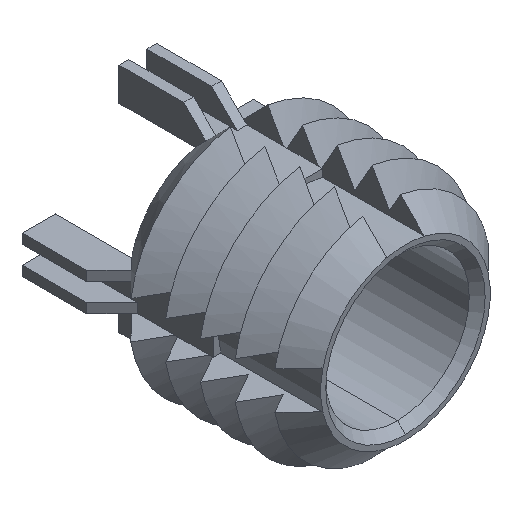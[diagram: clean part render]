
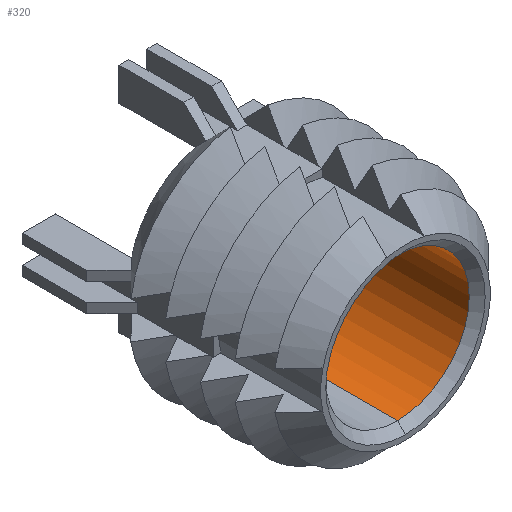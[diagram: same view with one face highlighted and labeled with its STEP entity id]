
A CAD part, isometric view. The second image highlights one B-rep face of the part: STEP entity #320.
In plain terms, the highlighted cylindrical face has radius 4.763 mm (diameter 9.525 mm), a partial arc.
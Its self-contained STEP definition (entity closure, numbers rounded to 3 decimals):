
#52 = DIRECTION ( 'NONE',  ( 0., -1., 0. ) ) ;
#113 = CARTESIAN_POINT ( 'NONE',  ( 0., -12.171, 0. ) ) ;
#194 = ORIENTED_EDGE ( 'NONE', *, *, #252, .F. ) ;
#219 = VERTEX_POINT ( 'NONE', #2604 ) ;
#252 = EDGE_CURVE ( 'NONE', #3459, #4299, #2275, .T. ) ;
#320 = ADVANCED_FACE ( 'NONE', ( #4283 ), #2929, .F. ) ;
#490 = CIRCLE ( 'NONE', #2918, 4.762 ) ;
#521 = AXIS2_PLACEMENT_3D ( 'NONE', #1097, #2401, #1115 ) ;
#712 = CARTESIAN_POINT ( 'NONE',  ( 0., -0.529, 4.762 ) ) ;
#966 = CARTESIAN_POINT ( 'NONE',  ( 0., -26.17, -4.762 ) ) ;
#1097 = CARTESIAN_POINT ( 'NONE',  ( 0., -0.529, 0. ) ) ;
#1115 = DIRECTION ( 'NONE',  ( 0., 0., 1. ) ) ;
#1288 = DIRECTION ( 'NONE',  ( 0., 0., 1. ) ) ;
#1306 = CARTESIAN_POINT ( 'NONE',  ( 0., -26.17, 0. ) ) ;
#1451 = LINE ( 'NONE', #4191, #2901 ) ;
#1518 = DIRECTION ( 'NONE',  ( 0., 1., 0. ) ) ;
#1534 = CARTESIAN_POINT ( 'NONE',  ( 0., -12.171, -4.762 ) ) ;
#1627 = ORIENTED_EDGE ( 'NONE', *, *, #3078, .T. ) ;
#1808 = EDGE_CURVE ( 'NONE', #3459, #219, #490, .T. ) ;
#2102 = DIRECTION ( 'NONE',  ( 0., 0., 1. ) ) ;
#2275 = LINE ( 'NONE', #966, #2907 ) ;
#2401 = DIRECTION ( 'NONE',  ( 0., 1., 0. ) ) ;
#2531 = CIRCLE ( 'NONE', #521, 4.762 ) ;
#2604 = CARTESIAN_POINT ( 'NONE',  ( 0., -12.171, 4.762 ) ) ;
#2625 = DIRECTION ( 'NONE',  ( 0., 1., 0. ) ) ;
#2768 = AXIS2_PLACEMENT_3D ( 'NONE', #1306, #2625, #1288 ) ;
#2901 = VECTOR ( 'NONE', #1518, 1000. ) ;
#2907 = VECTOR ( 'NONE', #3604, 1000. ) ;
#2918 = AXIS2_PLACEMENT_3D ( 'NONE', #113, #52, #2102 ) ;
#2929 = CYLINDRICAL_SURFACE ( 'NONE', #2768, 4.762 ) ;
#3061 = CARTESIAN_POINT ( 'NONE',  ( 0., -0.529, -4.762 ) ) ;
#3078 = EDGE_CURVE ( 'NONE', #3944, #4299, #2531, .T. ) ;
#3095 = ORIENTED_EDGE ( 'NONE', *, *, #1808, .T. ) ;
#3459 = VERTEX_POINT ( 'NONE', #1534 ) ;
#3604 = DIRECTION ( 'NONE',  ( 0., 1., 0. ) ) ;
#3607 = ORIENTED_EDGE ( 'NONE', *, *, #3670, .T. ) ;
#3670 = EDGE_CURVE ( 'NONE', #219, #3944, #1451, .T. ) ;
#3944 = VERTEX_POINT ( 'NONE', #712 ) ;
#4191 = CARTESIAN_POINT ( 'NONE',  ( 0., -26.17, 4.762 ) ) ;
#4279 = EDGE_LOOP ( 'NONE', ( #194, #3095, #3607, #1627 ) ) ;
#4283 = FACE_OUTER_BOUND ( 'NONE', #4279, .T. ) ;
#4299 = VERTEX_POINT ( 'NONE', #3061 ) ;
